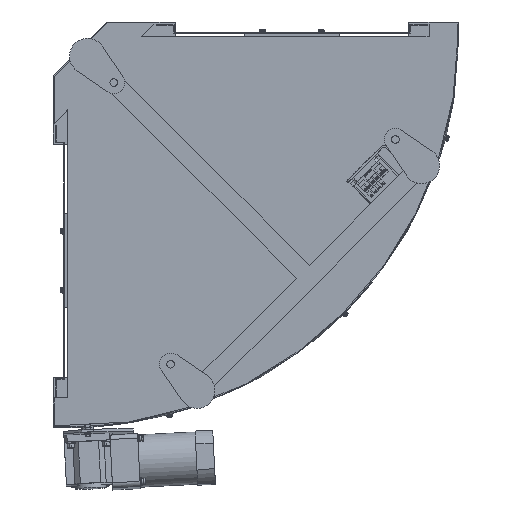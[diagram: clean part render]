
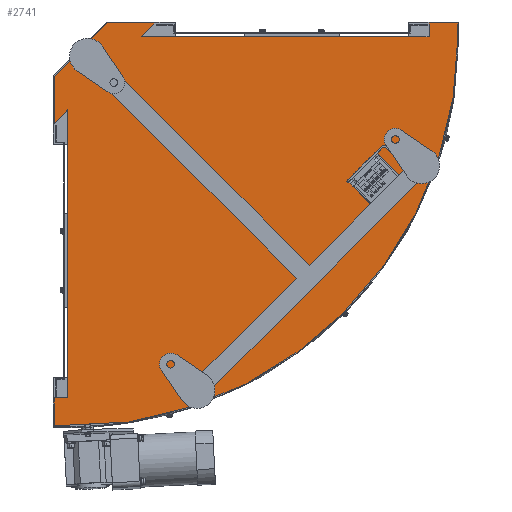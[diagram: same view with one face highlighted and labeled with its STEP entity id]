
A CAD part, front view. The second image highlights one B-rep face of the part: STEP entity #2741.
In plain terms, the highlighted planar face has unit normal (0, -1, 0).
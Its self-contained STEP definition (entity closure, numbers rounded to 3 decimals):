
#2741=ADVANCED_FACE('',(#17326),#17325,.F.);
#17325=PLANE('',#28249);
#17326=FACE_OUTER_BOUND('',#28250,.T.);
#28246=CARTESIAN_POINT('',(-33.4,-145.7,-669.87));
#28247=DIRECTION('',(0.,1.,0.));
#28248=DIRECTION('',(0.,0.,1.));
#28249=AXIS2_PLACEMENT_3D('',#28246,#28247,#28248);
#28250=EDGE_LOOP('',(#37373,#37374,#37375,#37376,#37377,#37378,#37379,#37380,#37381,#37382,#37383,#37384,#37385,#37386,#37387));
#37373=ORIENTED_EDGE('',*,*,#41838,.T.);
#37374=ORIENTED_EDGE('',*,*,#41809,.T.);
#37375=ORIENTED_EDGE('',*,*,#41847,.T.);
#37376=ORIENTED_EDGE('',*,*,#41848,.T.);
#37377=ORIENTED_EDGE('',*,*,#41849,.T.);
#37378=ORIENTED_EDGE('',*,*,#41850,.T.);
#37379=ORIENTED_EDGE('',*,*,#41851,.F.);
#37380=ORIENTED_EDGE('',*,*,#41852,.T.);
#37381=ORIENTED_EDGE('',*,*,#41853,.T.);
#37382=ORIENTED_EDGE('',*,*,#41854,.T.);
#37383=ORIENTED_EDGE('',*,*,#41855,.T.);
#37384=ORIENTED_EDGE('',*,*,#41856,.T.);
#37385=ORIENTED_EDGE('',*,*,#41857,.F.);
#37386=ORIENTED_EDGE('',*,*,#41858,.T.);
#37387=ORIENTED_EDGE('',*,*,#41859,.T.);
#41809=EDGE_CURVE('',#65669,#65670,#65671,.T.);
#41838=EDGE_CURVE('',#65865,#65669,#65866,.T.);
#41847=EDGE_CURVE('',#65670,#65926,#65927,.T.);
#41848=EDGE_CURVE('',#65926,#65933,#65934,.T.);
#41849=EDGE_CURVE('',#65933,#65940,#65941,.T.);
#41850=EDGE_CURVE('',#65940,#65947,#65948,.T.);
#41851=EDGE_CURVE('',#65954,#65947,#65955,.T.);
#41852=EDGE_CURVE('',#65954,#65961,#65962,.T.);
#41853=EDGE_CURVE('',#65961,#65968,#65969,.T.);
#41854=EDGE_CURVE('',#65968,#65975,#65976,.T.);
#41855=EDGE_CURVE('',#65975,#65982,#65983,.T.);
#41856=EDGE_CURVE('',#65982,#65989,#65990,.T.);
#41857=EDGE_CURVE('',#65996,#65989,#65997,.T.);
#41858=EDGE_CURVE('',#65996,#66003,#66004,.T.);
#41859=EDGE_CURVE('',#66003,#65865,#66010,.T.);
#65669=VERTEX_POINT('',#83194);
#65670=VERTEX_POINT('',#83195);
#65671=CIRCLE('',#83199,661.5);
#65865=VERTEX_POINT('',#83310);
#65866=LINE('',#83311,#83312);
#65926=VERTEX_POINT('',#83348);
#65927=CIRCLE('',#83352,661.5);
#65933=VERTEX_POINT('',#83353);
#65934=LINE('',#83354,#83355);
#65940=VERTEX_POINT('',#83357);
#65941=LINE('',#83358,#83359);
#65947=VERTEX_POINT('',#83361);
#65948=LINE('',#83362,#83363);
#65954=VERTEX_POINT('',#83365);
#65955=LINE('',#83366,#83367);
#65961=VERTEX_POINT('',#83369);
#65962=LINE('',#83370,#83371);
#65968=VERTEX_POINT('',#83373);
#65969=LINE('',#83374,#83375);
#65975=VERTEX_POINT('',#83377);
#65976=LINE('',#83378,#83379);
#65982=VERTEX_POINT('',#83381);
#65983=LINE('',#83382,#83383);
#65989=VERTEX_POINT('',#83385);
#65990=LINE('',#83386,#83387);
#65996=VERTEX_POINT('',#83389);
#65997=LINE('',#83390,#83391);
#66003=VERTEX_POINT('',#83393);
#66004=LINE('',#83394,#83395);
#66010=LINE('',#83397,#83398);
#83194=CARTESIAN_POINT('',(102.672,-145.7,-653.483));
#83195=CARTESIAN_POINT('',(106.279,-145.7,-652.907));
#83196=CARTESIAN_POINT('',(0.,-145.7,0.));
#83197=DIRECTION('',(0.,-1.,0.));
#83198=DIRECTION('',(0.,0.,-1.));
#83199=AXIS2_PLACEMENT_3D('',#83196,#83197,#83198);
#83310=CARTESIAN_POINT('',(-23.4,-145.7,-659.87));
#83311=CARTESIAN_POINT('',(-23.4,-145.7,-659.87));
#83312=VECTOR('',#83313,126.234);
#83313=DIRECTION('',(0.999,0.,0.051));
#83348=CARTESIAN_POINT('',(661.5,-145.7,0.));
#83349=CARTESIAN_POINT('',(0.,-145.7,0.));
#83350=DIRECTION('',(0.,-1.,0.));
#83351=DIRECTION('',(0.,0.,-1.));
#83352=AXIS2_PLACEMENT_3D('',#83349,#83350,#83351);
#83353=CARTESIAN_POINT('',(661.5,-145.7,23.4));
#83354=CARTESIAN_POINT('',(661.5,-145.7,0.));
#83355=VECTOR('',#83356,23.4);
#83356=DIRECTION('',(0.,0.,1.));
#83357=CARTESIAN_POINT('',(612.5,-145.7,23.4));
#83358=CARTESIAN_POINT('',(661.5,-145.7,23.4));
#83359=VECTOR('',#83360,49.);
#83360=DIRECTION('',(-1.,0.,0.));
#83361=CARTESIAN_POINT('',(612.5,-145.7,0.));
#83362=CARTESIAN_POINT('',(612.5,-145.7,23.4));
#83363=VECTOR('',#83364,23.4);
#83364=DIRECTION('',(0.,0.,-1.));
#83365=CARTESIAN_POINT('',(124.1,-145.7,0.));
#83366=CARTESIAN_POINT('',(124.1,-145.7,0.));
#83367=VECTOR('',#83368,488.4);
#83368=DIRECTION('',(1.,0.,0.));
#83369=CARTESIAN_POINT('',(147.5,-145.7,23.4));
#83370=CARTESIAN_POINT('',(124.1,-145.7,0.));
#83371=VECTOR('',#83372,33.093);
#83372=DIRECTION('',(0.707,0.,0.707));
#83373=CARTESIAN_POINT('',(66.663,-145.7,23.4));
#83374=CARTESIAN_POINT('',(147.5,-145.7,23.4));
#83375=VECTOR('',#83376,80.837);
#83376=DIRECTION('',(-1.,0.,0.));
#83377=CARTESIAN_POINT('',(-23.4,-145.7,-66.663));
#83378=CARTESIAN_POINT('',(66.663,-145.7,23.4));
#83379=VECTOR('',#83380,127.368);
#83380=DIRECTION('',(-0.707,0.,-0.707));
#83381=CARTESIAN_POINT('',(-23.4,-145.7,-147.5));
#83382=CARTESIAN_POINT('',(-23.4,-145.7,-66.663));
#83383=VECTOR('',#83384,80.837);
#83384=DIRECTION('',(0.,0.,-1.));
#83385=CARTESIAN_POINT('',(0.,-145.7,-124.1));
#83386=CARTESIAN_POINT('',(-23.4,-145.7,-147.5));
#83387=VECTOR('',#83388,33.093);
#83388=DIRECTION('',(0.707,0.,0.707));
#83389=CARTESIAN_POINT('',(0.,-145.7,-612.5));
#83390=CARTESIAN_POINT('',(0.,-145.7,-612.5));
#83391=VECTOR('',#83392,488.4);
#83392=DIRECTION('',(0.,0.,1.));
#83393=CARTESIAN_POINT('',(-23.4,-145.7,-612.5));
#83394=CARTESIAN_POINT('',(0.,-145.7,-612.5));
#83395=VECTOR('',#83396,23.4);
#83396=DIRECTION('',(-1.,0.,0.));
#83397=CARTESIAN_POINT('',(-23.4,-145.7,-612.5));
#83398=VECTOR('',#83399,47.37);
#83399=DIRECTION('',(0.,0.,-1.));
